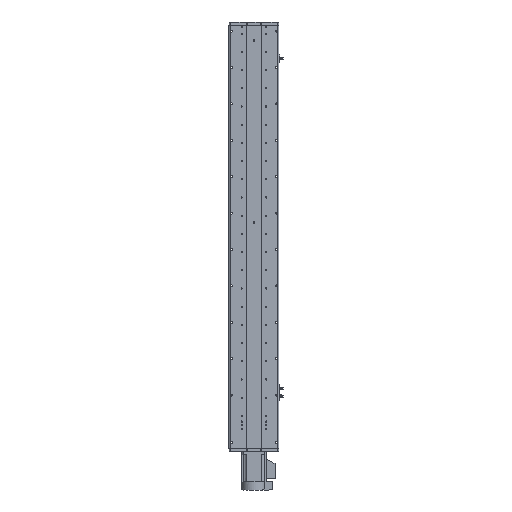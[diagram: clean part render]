
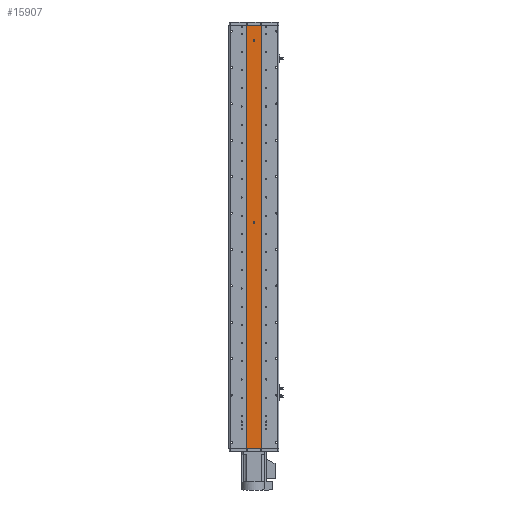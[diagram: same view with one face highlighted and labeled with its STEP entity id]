
A CAD part, front view. The second image highlights one B-rep face of the part: STEP entity #15907.
In plain terms, the highlighted planar face has unit normal (0, -1, 0).
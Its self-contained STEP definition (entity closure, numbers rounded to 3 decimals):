
#1257 = EDGE_LOOP ( 'NONE', ( #2183, #28374, #12196, #9768 ) ) ;
#1733 = VERTEX_POINT ( 'NONE', #13186 ) ;
#2183 = ORIENTED_EDGE ( 'NONE', *, *, #33694, .T. ) ;
#3749 = VERTEX_POINT ( 'NONE', #13331 ) ;
#3952 = LINE ( 'NONE', #38145, #37546 ) ;
#5132 = EDGE_CURVE ( 'NONE', #37448, #3749, #41613, .T. ) ;
#5494 = CARTESIAN_POINT ( 'NONE',  ( 0., 1., 648. ) ) ;
#5756 = AXIS2_PLACEMENT_3D ( 'NONE', #35195, #15709, #38447 ) ;
#6071 = LINE ( 'NONE', #10317, #7088 ) ;
#6295 = CARTESIAN_POINT ( 'NONE',  ( 25., 1., -698. ) ) ;
#6772 = DIRECTION ( 'NONE',  ( 1., 0., 0. ) ) ;
#7088 = VECTOR ( 'NONE', #29778, 1000. ) ;
#7459 = LINE ( 'NONE', #23052, #32423 ) ;
#7573 = CARTESIAN_POINT ( 'NONE',  ( 25., 1., -698. ) ) ;
#7623 = DIRECTION ( 'NONE',  ( 0., -1., 0. ) ) ;
#7849 = ORIENTED_EDGE ( 'NONE', *, *, #35188, .F. ) ;
#8803 = DIRECTION ( 'NONE',  ( 0., 0., -1. ) ) ;
#9550 = VERTEX_POINT ( 'NONE', #35071 ) ;
#9616 = DIRECTION ( 'NONE',  ( 1., 0., 0. ) ) ;
#9768 = ORIENTED_EDGE ( 'NONE', *, *, #36524, .T. ) ;
#10317 = CARTESIAN_POINT ( 'NONE',  ( -25., 1., 698. ) ) ;
#10670 = AXIS2_PLACEMENT_3D ( 'NONE', #11512, #14804, #37518 ) ;
#10853 = VERTEX_POINT ( 'NONE', #7573 ) ;
#11064 = CARTESIAN_POINT ( 'NONE',  ( -25., 1., 698. ) ) ;
#11512 = CARTESIAN_POINT ( 'NONE',  ( 25., 1., 698. ) ) ;
#11820 = ORIENTED_EDGE ( 'NONE', *, *, #42128, .F. ) ;
#12196 = ORIENTED_EDGE ( 'NONE', *, *, #28962, .F. ) ;
#13186 = CARTESIAN_POINT ( 'NONE',  ( 0., 1., 645. ) ) ;
#13253 = CARTESIAN_POINT ( 'NONE',  ( 0., 1., 48. ) ) ;
#13331 = CARTESIAN_POINT ( 'NONE',  ( 0., 1., 51. ) ) ;
#14804 = DIRECTION ( 'NONE',  ( 0., 1., 0. ) ) ;
#14978 = VECTOR ( 'NONE', #9616, 1000. ) ;
#15709 = DIRECTION ( 'NONE',  ( 0., -1., 0. ) ) ;
#15907 = ADVANCED_FACE ( 'NONE', ( #33286, #26684, #32274 ), #24486, .F. ) ;
#16029 = EDGE_CURVE ( 'NONE', #1733, #32935, #38877, .T. ) ;
#16311 = EDGE_LOOP ( 'NONE', ( #36825, #7849 ) ) ;
#16518 = DIRECTION ( 'NONE',  ( 0., 0., -1. ) ) ;
#20932 = CARTESIAN_POINT ( 'NONE',  ( 0., 1., 651. ) ) ;
#22112 = AXIS2_PLACEMENT_3D ( 'NONE', #13253, #36008, #16518 ) ;
#23052 = CARTESIAN_POINT ( 'NONE',  ( 25., 1., 698. ) ) ;
#23775 = AXIS2_PLACEMENT_3D ( 'NONE', #5494, #28287, #8803 ) ;
#24486 = PLANE ( 'NONE',  #10670 ) ;
#25214 = DIRECTION ( 'NONE',  ( 0., 0., -1. ) ) ;
#26446 = CARTESIAN_POINT ( 'NONE',  ( 0., 1., 45. ) ) ;
#26684 = FACE_BOUND ( 'NONE', #16311, .T. ) ;
#27131 = CARTESIAN_POINT ( 'NONE',  ( 0., 1., 648. ) ) ;
#28287 = DIRECTION ( 'NONE',  ( 0., -1., 0. ) ) ;
#28374 = ORIENTED_EDGE ( 'NONE', *, *, #39839, .F. ) ;
#28962 = EDGE_CURVE ( 'NONE', #34938, #9550, #7459, .T. ) ;
#29778 = DIRECTION ( 'NONE',  ( 0., 0., -1. ) ) ;
#30416 = DIRECTION ( 'NONE',  ( 0., 0., -1. ) ) ;
#30663 = CARTESIAN_POINT ( 'NONE',  ( -25., 1., -698. ) ) ;
#31804 = VERTEX_POINT ( 'NONE', #30663 ) ;
#32274 = FACE_OUTER_BOUND ( 'NONE', #1257, .T. ) ;
#32423 = VECTOR ( 'NONE', #6772, 1000. ) ;
#32935 = VERTEX_POINT ( 'NONE', #20932 ) ;
#33286 = FACE_BOUND ( 'NONE', #34534, .T. ) ;
#33694 = EDGE_CURVE ( 'NONE', #31804, #10853, #40938, .T. ) ;
#34147 = CIRCLE ( 'NONE', #5756, 3. ) ;
#34534 = EDGE_LOOP ( 'NONE', ( #37088, #11820 ) ) ;
#34938 = VERTEX_POINT ( 'NONE', #11064 ) ;
#35071 = CARTESIAN_POINT ( 'NONE',  ( 25., 1., 698. ) ) ;
#35188 = EDGE_CURVE ( 'NONE', #3749, #37448, #34147, .T. ) ;
#35195 = CARTESIAN_POINT ( 'NONE',  ( 0., 1., 48. ) ) ;
#35315 = CIRCLE ( 'NONE', #40830, 3. ) ;
#36008 = DIRECTION ( 'NONE',  ( 0., -1., 0. ) ) ;
#36524 = EDGE_CURVE ( 'NONE', #34938, #31804, #6071, .T. ) ;
#36825 = ORIENTED_EDGE ( 'NONE', *, *, #5132, .F. ) ;
#37088 = ORIENTED_EDGE ( 'NONE', *, *, #16029, .F. ) ;
#37448 = VERTEX_POINT ( 'NONE', #26446 ) ;
#37518 = DIRECTION ( 'NONE',  ( 0., 0., 1. ) ) ;
#37546 = VECTOR ( 'NONE', #25214, 1000. ) ;
#38145 = CARTESIAN_POINT ( 'NONE',  ( 25., 1., 698. ) ) ;
#38447 = DIRECTION ( 'NONE',  ( 0., 0., -1. ) ) ;
#38877 = CIRCLE ( 'NONE', #23775, 3. ) ;
#39839 = EDGE_CURVE ( 'NONE', #9550, #10853, #3952, .T. ) ;
#40830 = AXIS2_PLACEMENT_3D ( 'NONE', #27131, #7623, #30416 ) ;
#40938 = LINE ( 'NONE', #6295, #14978 ) ;
#41613 = CIRCLE ( 'NONE', #22112, 3. ) ;
#42128 = EDGE_CURVE ( 'NONE', #32935, #1733, #35315, .T. ) ;
